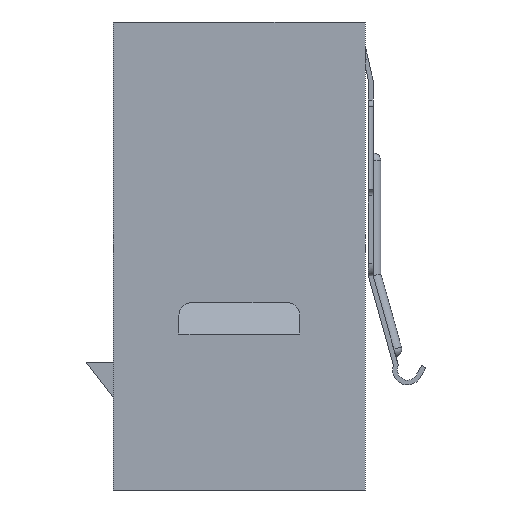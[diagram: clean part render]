
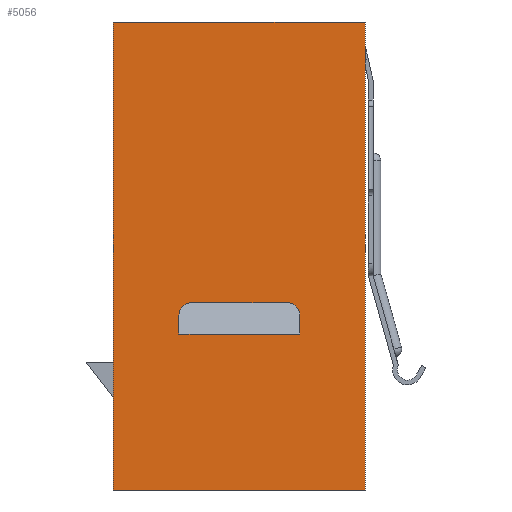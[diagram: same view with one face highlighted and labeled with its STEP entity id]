
A CAD part, left-side view. The second image highlights one B-rep face of the part: STEP entity #5056.
In plain terms, the highlighted planar face has unit normal (-1, 0, 0).
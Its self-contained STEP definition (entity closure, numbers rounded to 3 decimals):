
#286=FACE_BOUND('',#986,.T.);
#417=CIRCLE('',#5456,0.8);
#418=CIRCLE('',#5459,0.8);
#716=FACE_OUTER_BOUND('',#985,.T.);
#985=EDGE_LOOP('',(#4136,#4137,#4138,#4139));
#986=EDGE_LOOP('',(#4140,#4141,#4142,#4143,#4144,#4145));
#1426=LINE('',#8308,#1928);
#1430=LINE('',#8316,#1932);
#1432=LINE('',#8319,#1934);
#1433=LINE('',#8322,#1935);
#1434=LINE('',#8326,#1936);
#1435=LINE('',#8328,#1937);
#1436=LINE('',#8330,#1938);
#1437=LINE('',#8331,#1939);
#1928=VECTOR('',#6578,1.2);
#1932=VECTOR('',#6586,7.75);
#1934=VECTOR('',#6590,6.15);
#1935=VECTOR('',#6595,1.2);
#1936=VECTOR('',#6598,30.);
#1937=VECTOR('',#6599,16.15);
#1938=VECTOR('',#6600,30.);
#1939=VECTOR('',#6601,16.15);
#2420=VERTEX_POINT('',#8290);
#2422=VERTEX_POINT('',#8293);
#2424=VERTEX_POINT('',#8298);
#2425=VERTEX_POINT('',#8300);
#2427=VERTEX_POINT('',#8306);
#2429=VERTEX_POINT('',#8314);
#2430=VERTEX_POINT('',#8324);
#2431=VERTEX_POINT('',#8325);
#2432=VERTEX_POINT('',#8327);
#2433=VERTEX_POINT('',#8329);
#3059=EDGE_CURVE('',#2422,#2420,#417,.T.);
#3063=EDGE_CURVE('',#2424,#2425,#418,.T.);
#3066=EDGE_CURVE('',#2427,#2425,#1426,.T.);
#3070=EDGE_CURVE('',#2427,#2429,#1430,.T.);
#3072=EDGE_CURVE('',#2420,#2424,#1432,.T.);
#3073=EDGE_CURVE('',#2422,#2429,#1433,.T.);
#3074=EDGE_CURVE('',#2430,#2431,#1434,.T.);
#3075=EDGE_CURVE('',#2430,#2432,#1435,.T.);
#3076=EDGE_CURVE('',#2433,#2432,#1436,.T.);
#3077=EDGE_CURVE('',#2433,#2431,#1437,.T.);
#4136=ORIENTED_EDGE('',*,*,#3074,.F.);
#4137=ORIENTED_EDGE('',*,*,#3075,.T.);
#4138=ORIENTED_EDGE('',*,*,#3076,.F.);
#4139=ORIENTED_EDGE('',*,*,#3077,.T.);
#4140=ORIENTED_EDGE('',*,*,#3070,.T.);
#4141=ORIENTED_EDGE('',*,*,#3073,.F.);
#4142=ORIENTED_EDGE('',*,*,#3059,.T.);
#4143=ORIENTED_EDGE('',*,*,#3072,.T.);
#4144=ORIENTED_EDGE('',*,*,#3063,.T.);
#4145=ORIENTED_EDGE('',*,*,#3066,.F.);
#4812=PLANE('',#5466);
#5056=ADVANCED_FACE('',(#716,#286),#4812,.T.);
#5456=AXIS2_PLACEMENT_3D('',#8294,#6564,#6565);
#5459=AXIS2_PLACEMENT_3D('',#8302,#6572,#6573);
#5466=AXIS2_PLACEMENT_3D('',#8323,#6596,#6597);
#6564=DIRECTION('center_axis',(1.,0.,0.));
#6565=DIRECTION('ref_axis',(0.,0.,-1.));
#6572=DIRECTION('center_axis',(1.,0.,0.));
#6573=DIRECTION('ref_axis',(0.,1.,0.));
#6578=DIRECTION('',(0.,0.,1.));
#6586=DIRECTION('',(0.,1.,0.));
#6590=DIRECTION('',(0.,-1.,0.));
#6595=DIRECTION('',(0.,0.,-1.));
#6596=DIRECTION('center_axis',(-1.,0.,0.));
#6597=DIRECTION('ref_axis',(0.,0.,1.));
#6598=DIRECTION('',(0.,0.,1.));
#6599=DIRECTION('',(0.,-1.,0.));
#6600=DIRECTION('',(0.,0.,-1.));
#6601=DIRECTION('',(0.,1.,0.));
#8290=CARTESIAN_POINT('',(-7.3,3.075,-7.86));
#8293=CARTESIAN_POINT('',(-7.3,3.875,-8.66));
#8294=CARTESIAN_POINT('Origin',(-7.3,3.075,-8.66));
#8298=CARTESIAN_POINT('',(-7.3,-3.075,-7.86));
#8300=CARTESIAN_POINT('',(-7.3,-3.875,-8.66));
#8302=CARTESIAN_POINT('Origin',(-7.3,-3.075,-8.66));
#8306=CARTESIAN_POINT('',(-7.3,-3.875,-9.86));
#8308=CARTESIAN_POINT('',(-7.3,-3.875,-7.86));
#8314=CARTESIAN_POINT('',(-7.3,3.875,-9.86));
#8316=CARTESIAN_POINT('',(-7.3,0.,-9.86));
#8319=CARTESIAN_POINT('',(-7.3,0.,-7.86));
#8322=CARTESIAN_POINT('',(-7.3,3.875,-7.86));
#8323=CARTESIAN_POINT('Origin',(-7.3,-8.075,0.));
#8324=CARTESIAN_POINT('',(-7.3,8.075,-19.86));
#8325=CARTESIAN_POINT('',(-7.3,8.075,10.14));
#8326=CARTESIAN_POINT('',(-7.3,8.075,0.));
#8327=CARTESIAN_POINT('',(-7.3,-8.075,-19.86));
#8328=CARTESIAN_POINT('',(-7.3,-8.075,-19.86));
#8329=CARTESIAN_POINT('',(-7.3,-8.075,10.14));
#8330=CARTESIAN_POINT('',(-7.3,-8.075,0.));
#8331=CARTESIAN_POINT('',(-7.3,-8.075,10.14));
